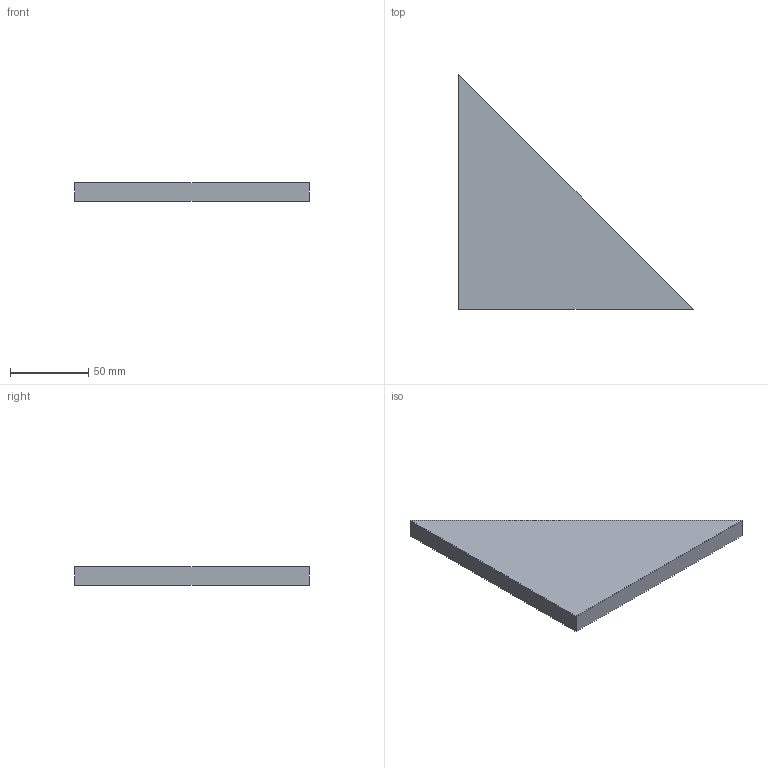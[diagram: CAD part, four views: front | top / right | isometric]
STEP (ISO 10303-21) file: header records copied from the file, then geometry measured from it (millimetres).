
FILE_DESCRIPTION(('Open CASCADE Model'),'2;1');
FILE_NAME('Open CASCADE Shape Model','2026-10-19T10:09:20',('Author'),( 'Open CASCADE'),'Open CASCADE STEP processor 8.0','Open CASCADE 8.0' ,'Unknown');
FILE_SCHEMA(('AUTOMOTIVE_DESIGN { 1 0 10303 214 1 1 1 1 }'));
Length unit declared in the file: millimetre
Products named in the file (1): CR_CARTELA_TRIANGULAR_150x150x12_P05 54
Bounding box: 150 x 150 x 12 mm (x, y, z)
Volume: 135000 mm3; surface area: 28645.6 mm2
Topology: 1 solids, 1 shells, 5 faces, 9 edges, 6 vertices
Faces by surface type: plane 5
Entity records: 250 total; most frequent: CARTESIAN_POINT 39, DIRECTION 39, LINE 27, VECTOR 27, ORIENTED_EDGE 18, PCURVE 18, DEFINITIONAL_REPRESENTATION 18, EDGE_CURVE 9
